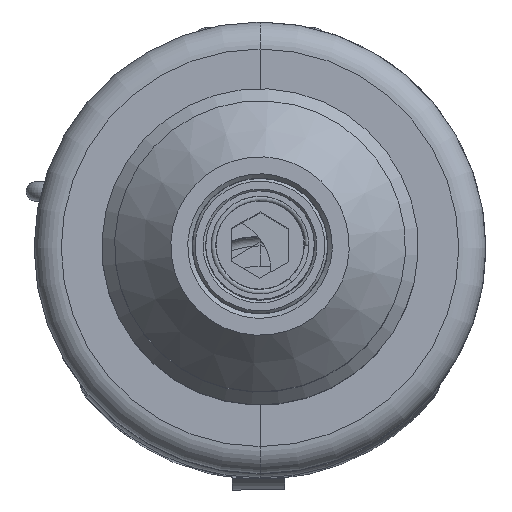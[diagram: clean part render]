
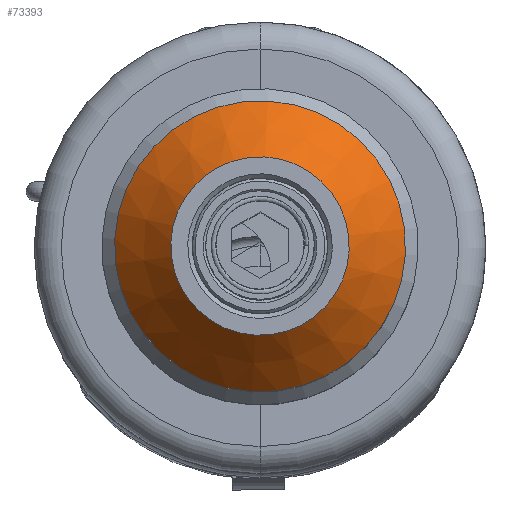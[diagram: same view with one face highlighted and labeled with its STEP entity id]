
A CAD part, top view. The second image highlights one B-rep face of the part: STEP entity #73393.
In plain terms, the highlighted conical face has half-angle 41.646 degrees and reference radius 9.875 mm.
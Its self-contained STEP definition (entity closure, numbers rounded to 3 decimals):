
#3045 = EDGE_LOOP ( 'NONE', ( #54641 ) ) ;
#7598 = CARTESIAN_POINT ( 'NONE',  ( -4.327, 86.755, -111.597 ) ) ;
#11735 = CONICAL_SURFACE ( 'NONE', #56774, 9.875, 0.727 ) ;
#17704 = DIRECTION ( 'NONE',  ( 0.054, 0.999, -0.002 ) ) ;
#19062 = CARTESIAN_POINT ( 'NONE',  ( -3.45, 102.814, -118.637 ) ) ;
#24432 = AXIS2_PLACEMENT_3D ( 'NONE', #101944, #85011, #24808 ) ;
#24808 = DIRECTION ( 'NONE',  ( 0.054, 0.999, -0.002 ) ) ;
#25685 = FACE_OUTER_BOUND ( 'NONE', #3045, .T. ) ;
#31733 = EDGE_LOOP ( 'NONE', ( #36908 ) ) ;
#36908 = ORIENTED_EDGE ( 'NONE', *, *, #55696, .F. ) ;
#52267 = VERTEX_POINT ( 'NONE', #19062 ) ;
#54641 = ORIENTED_EDGE ( 'NONE', *, *, #61173, .T. ) ;
#55696 = EDGE_CURVE ( 'NONE', #86634, #86634, #105353, .T. ) ;
#56774 = AXIS2_PLACEMENT_3D ( 'NONE', #7598, #60514, #102809 ) ;
#60514 = DIRECTION ( 'NONE',  ( 0., -0.002, -1. ) ) ;
#61173 = EDGE_CURVE ( 'NONE', #52267, #52267, #98857, .T. ) ;
#73393 = ADVANCED_FACE ( 'NONE', ( #25685, #110175 ), #11735, .T. ) ;
#76814 = CARTESIAN_POINT ( 'NONE',  ( -4.327, 86.738, -118.597 ) ) ;
#78738 = CARTESIAN_POINT ( 'NONE',  ( -3.789, 96.616, -111.622 ) ) ;
#84476 = AXIS2_PLACEMENT_3D ( 'NONE', #76814, #110682, #17704 ) ;
#85011 = DIRECTION ( 'NONE',  ( 0., 0.002, 1. ) ) ;
#86634 = VERTEX_POINT ( 'NONE', #78738 ) ;
#98857 = CIRCLE ( 'NONE', #84476, 16.1 ) ;
#101944 = CARTESIAN_POINT ( 'NONE',  ( -4.327, 86.755, -111.597 ) ) ;
#102809 = DIRECTION ( 'NONE',  ( -0.054, -0.999, 0.002 ) ) ;
#105353 = CIRCLE ( 'NONE', #24432, 9.875 ) ;
#110175 = FACE_BOUND ( 'NONE', #31733, .T. ) ;
#110682 = DIRECTION ( 'NONE',  ( 0., 0.002, 1. ) ) ;
